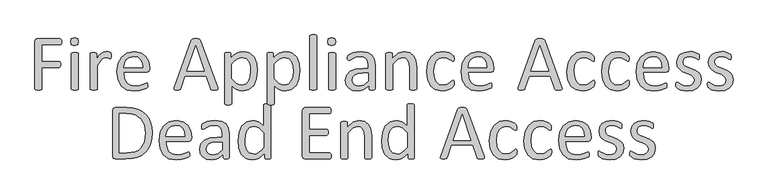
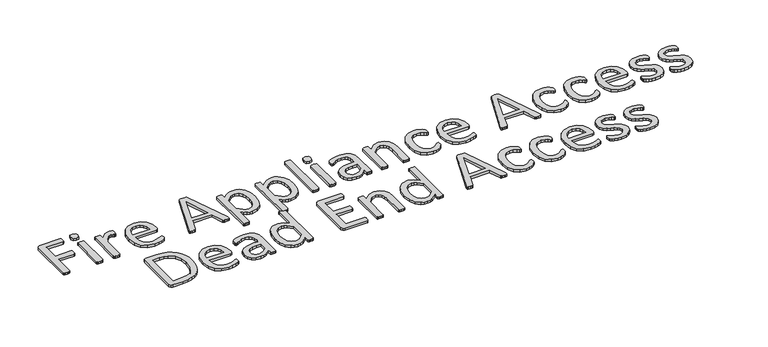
"""IFC4 building model written with IfcOpenShell, lengths in millimetres: proxy geometry, Marker-Fire Appliance Access Dead End : FAA Dead End Line."""

from ifc_helpers import new_model, si_unit, origin, origin_with_axes, place, context, project, spatial, polyline, outline, extrude, source, transform, mapped, element, save


def generic_models_7050a683(model_context):
    return source(origin(), model_context, "Body", "SweptSolid", [
        extrude(outline(polyline([(3049.3085596, 236.2082635), (3049.0069847, 230.9910177), (3047.9514725, 227.4324338), (3046.2023381, 225.4420395), (3044.1214713, 224.8087322), (2972.1053843, 224.8087322), (2972.1053843, 159.1860331), (3040.1406825, 159.1860331), (3042.2215494, 158.6130408), (3043.9706838, 156.7432764), (3045.026196, 153.275165), (3045.3277709, 147.6658718), (3045.026196, 142.4184685), (3043.9706838, 138.8598846), (3042.2215494, 136.7488603), (3040.1406825, 136.0250805), (2972.1053843, 136.0250805), (2972.1053843, 52.1872573), (2971.472077, 50.1063905), (2969.2705802, 48.5683585), (2965.199319, 47.6334763), (2958.5948286, 47.2414289), (2952.1411256, 47.6334763), (2947.919077, 48.5683585), (2945.7175802, 50.1063905), (2945.0842729, 52.1872573), (2945.0842729, 237.1733032), (2948.2206519, 245.587243), (2954.9156148, 247.9696848), (3044.1214713, 247.9696848), (3046.1420231, 247.3363775), (3047.921315, 245.2856681), (3049.0069847, 241.5461393), (3049.3085596, 236.2082635)])), origin_with_axes(), (0.0, 0.0, 1.0), 10.0),
        extrude(outline(polyline([(3114.9312586, 236.5701534), (3111.6139347, 224.2357399), (3099.3096786, 220.9485734), (3087.3069975, 224.1452674), (3084.0499885, 236.2082635), (3087.3673124, 248.5426771), (3099.6715685, 251.8298435), (3111.6742497, 248.6331496), (3114.9312586, 236.5701534)])), origin_with_axes(), (0.0, 0.0, 1.0), 10.0),
        extrude(outline(polyline([(3114.9312586, 51.9459974), (3114.2677938, 49.8952881), (3112.126612, 48.4477285), (3108.0553508, 47.5430038), (3101.360388, 47.2414289), (3094.7860551, 47.5430038), (3090.6243214, 48.4477285), (3088.4831396, 49.8952881), (3087.9101473, 51.9459974), (3087.9101473, 189.2228935), (3088.4831396, 191.1831304), (3090.6243214, 192.7211624), (3094.7860551, 193.6258871), (3101.360388, 193.927462), (3108.0553508, 193.6258871), (3112.126612, 192.7211624), (3114.2677938, 191.1831304), (3114.9312586, 189.2228935), (3114.9312586, 51.9459974)])), origin_with_axes(), (0.0, 0.0, 1.0), 10.0),
        extrude(outline(polyline([(3242.3164979, 182.3469857), (3242.1657105, 176.8583225), (3241.5625607, 173.2997386), (3240.4467335, 171.2791868), (3238.5769691, 170.5855645), (3235.6516926, 171.2791868), (3231.7613763, 172.6664313), (3226.9060204, 173.9933609), (3221.0856247, 174.6266682), (3213.7271971, 172.9680062), (3206.157667, 167.539658), (3197.8643571, 157.5273712), (3188.2742752, 142.2375235), (3188.2742752, 51.9459974), (3187.6108104, 49.8952881), (3185.4696286, 48.4477285), (3181.3983674, 47.5430038), (3174.7034045, 47.2414289), (3168.1290716, 47.5430038), (3163.967338, 48.4477285), (3161.8261561, 49.8952881), (3161.2531638, 51.9459974), (3161.2531638, 189.2228935), (3161.7356837, 191.2736029), (3163.6959205, 192.7814774), (3167.4656068, 193.6862021), (3173.5574199, 193.927462), (3179.528603, 193.6862021), (3183.2078168, 192.7814774), (3185.1077387, 191.2736029), (3185.680731, 189.2228935), (3185.680731, 169.1983199), (3196.1152227, 183.4929704), (3205.3735722, 192.2084851), (3213.9986145, 196.5813212), (3222.6538142, 197.7876208), (3227.0568078, 197.5765184), (3232.2438961, 196.7622661), (3237.1294096, 195.4051791), (3240.2054736, 193.927462), (3241.4117732, 192.5402175), (3241.954608, 190.8212405), (3242.2561829, 187.775334), (3242.3164979, 182.3469857)])), origin_with_axes(), (0.0, 0.0, 1.0), 10.0),
        extrude(outline(polyline([(3392.8626898, 127.7619282), (3389.8770983, 119.2575159), (3383.031348, 116.7242867), (3292.4985619, 116.7242867), (3294.7603737, 94.4077438), (3302.2695888, 77.3989193), (3315.9610894, 66.4819078), (3336.5888128, 62.682064), (3353.7182673, 64.4613559), (3366.7463032, 68.4723021), (3375.7633928, 72.4832483), (3381.1012686, 74.2625403), (3382.971033, 73.7498629), (3384.2678051, 72.2419884), (3384.9312699, 69.4373418), (3385.1423723, 65.0343482), (3384.9915848, 61.8074967), (3384.5995375, 59.36474), (3383.8456002, 57.4045032), (3382.4885131, 55.7458412), (3377.5728422, 52.8205646), (3366.9875631, 48.6588309), (3351.9088179, 45.0097746), (3333.6333788, 43.3812701), (3304.1695107, 48.2064686), (3282.90848, 62.561434), (3269.8804441, 86.4763239), (3265.4774505, 119.8606657), (3270.0915466, 152.4307553), (3283.3909998, 176.9186375), (3304.3806131, 192.38943), (3331.9445593, 197.7876208), (3359.6894504, 192.570375), (3378.5378819, 178.5169845), (3389.3945784, 157.7987886), (3392.8626898, 132.4061817), (3392.8626898, 127.7619282)]), holes=[polyline([(3365.8415785, 136.0250805), (3363.888881, 153.7350668), (3357.1863787, 167.1777681), (3345.899938, 175.6595622), (3330.1954249, 178.486827), (3314.1214825, 174.9885581), (3302.5711637, 165.6698936), (3295.3635235, 152.1291804), (3292.4985619, 136.0250805), (3365.8415785, 136.0250805)])]), origin_with_axes(), (0.0, 0.0, 1.0), 10.0),
        extrude(outline(polyline([(3658.0073451, 57.6759206), (3659.3041172, 52.1872573), (3658.1581326, 48.9604059), (3654.0567139, 47.5430038), (3646.4268688, 47.2414289), (3638.7367088, 47.4826888), (3634.4241877, 48.2667836), (3632.2830058, 49.7445006), (3630.9259188, 52.0666274), (3613.7964642, 101.2836516), (3530.6221058, 101.2836516), (3514.276746, 52.7300921), (3513.0101314, 50.3174929), (3510.7784772, 48.5683585), (3506.6167435, 47.5430038), (3499.5598907, 47.2414289), (3492.2316206, 47.6334763), (3488.2206744, 49.1111933), (3487.1350047, 52.3078873), (3488.4619343, 57.7965505), (3555.5321929, 242.4810215), (3557.1305398, 245.2253531), (3560.0859739, 246.8840151), (3565.0318023, 247.7284248), (3572.6616474, 247.9696848), (3580.8644848, 247.7284248), (3586.1420456, 246.8840151), (3589.2181096, 245.1650382), (3590.9370865, 242.3603916), (3658.0073451, 57.6759206)]), holes=[polyline([(3571.9378676, 220.9485734), (3537.3170687, 120.5844455), (3606.8602415, 120.5844455), (3571.9378676, 220.9485734)])]), origin_with_axes(), (0.0, 0.0, 1.0), 10.0),
        extrude(outline(polyline([(3813.6199954, 122.6954698), (3809.7598366, 89.6127029), (3798.4206203, 64.7026158), (3779.8737637, 48.9302484), (3754.5716293, 43.3812701), (3743.3832003, 44.6177272), (3733.3105986, 48.538201), (3723.5395717, 55.2633213), (3713.2558675, 64.7930883), (3713.2558675, -5.6548092), (3712.5924027, -7.856306), (3710.4512209, -9.4244955), (3706.3799597, -10.3593777), (3699.6849968, -10.6609526), (3693.1106639, -10.3593777), (3688.9489302, -9.4244955), (3686.8077484, -7.856306), (3686.2347561, -5.7151242), (3686.2347561, 189.1022636), (3686.7172759, 191.3640754), (3688.6775128, 192.8417924), (3692.4471991, 193.6862021), (3698.0564923, 193.927462), (3703.695943, 193.7163596), (3707.3751568, 192.9322649), (3709.4258662, 191.5450203), (3709.9988585, 189.4038385), (3709.9988585, 171.8521791), (3721.9713822, 183.2517104), (3733.582016, 191.3037604), (3745.5846971, 196.1591163), (3758.552418, 197.7876208), (3772.3042336, 196.3023644), (3783.8847099, 191.8465952), (3800.9538494, 175.6218654), (3810.5740889, 151.676818), (3813.6199954, 122.6954698)]), holes=[polyline([(3786.598884, 119.7400357), (3785.0306945, 140.1868142), (3779.6325038, 157.7384736), (3769.3487995, 170.0125722), (3753.3050147, 174.6266682), (3743.8355627, 173.2092662), (3734.3962682, 168.6856426), (3724.3538239, 160.5431202), (3713.2558675, 148.1483917), (3713.2558675, 92.2364045), (3732.5868188, 73.1467131), (3741.9582589, 68.1933453), (3751.7971402, 66.5422227), (3767.78061, 71.1563188), (3778.5769916, 83.4304173), (3784.6386472, 100.5900294), (3786.598884, 119.7400357)])]), origin_with_axes(), (0.0, 0.0, 1.0), 10.0),
        extrude(outline(polyline([(3979.6068224, 122.6954698), (3975.7466636, 89.6127029), (3964.4074472, 64.7026158), (3945.8605906, 48.9302484), (3920.5584562, 43.3812701), (3909.3700273, 44.6177272), (3899.2974255, 48.538201), (3889.5263986, 55.2633213), (3879.2426944, 64.7930883), (3879.2426944, -5.6548092), (3878.5792296, -7.856306), (3876.4380478, -9.4244955), (3872.3667866, -10.3593777), (3865.6718238, -10.6609526), (3859.0974909, -10.3593777), (3854.9357572, -9.4244955), (3852.7945754, -7.856306), (3852.2215831, -5.7151242), (3852.2215831, 189.1022636), (3852.7041029, 191.3640754), (3854.6643398, 192.8417924), (3858.4340261, 193.6862021), (3864.0433193, 193.927462), (3869.68277, 193.7163596), (3873.3619838, 192.9322649), (3875.4126932, 191.5450203), (3875.9856855, 189.4038385), (3875.9856855, 171.8521791), (3887.9582091, 183.2517104), (3899.5688429, 191.3037604), (3911.5715241, 196.1591163), (3924.539245, 197.7876208), (3938.2910606, 196.3023644), (3949.8715369, 191.8465952), (3966.9406764, 175.6218654), (3976.5609158, 151.676818), (3979.6068224, 122.6954698)]), holes=[polyline([(3952.585711, 119.7400357), (3951.0175215, 140.1868142), (3945.6193307, 157.7384736), (3935.3356265, 170.0125722), (3919.2918416, 174.6266682), (3909.8223897, 173.2092662), (3900.3830952, 168.6856426), (3890.3406509, 160.5431202), (3879.2426944, 148.1483917), (3879.2426944, 92.2364045), (3898.5736458, 73.1467131), (3907.9450859, 68.1933453), (3917.7839671, 66.5422227), (3933.767437, 71.1563188), (3944.5638186, 83.4304173), (3950.6254741, 100.5900294), (3952.585711, 119.7400357)])]), origin_with_axes(), (0.0, 0.0, 1.0), 10.0),
        extrude(outline(polyline([(4045.2295214, 52.0063124), (4044.5660566, 49.955603), (4042.4248748, 48.477886), (4038.3536136, 47.5430038), (4031.6586507, 47.2414289), (4025.0843178, 47.5430038), (4020.9225842, 48.477886), (4018.7814023, 49.955603), (4018.20841, 52.0063124), (4018.20841, 258.4644914), (4018.7814023, 260.6358307), (4020.9225842, 262.1738627), (4025.0843178, 263.1087449), (4031.6586507, 263.4103198), (4038.3536136, 263.1087449), (4042.4248748, 262.1738627), (4044.5660566, 260.6358307), (4045.2295214, 258.4644914), (4045.2295214, 52.0063124)])), origin_with_axes(), (0.0, 0.0, 1.0), 10.0),
        extrude(outline(polyline([(4118.572538, 236.5701534), (4115.255214, 224.2357399), (4102.950958, 220.9485734), (4090.9482768, 224.1452674), (4087.6912678, 236.2082635), (4091.0085918, 248.5426771), (4103.3128478, 251.8298435), (4115.315529, 248.6331496), (4118.572538, 236.5701534)])), origin_with_axes(), (0.0, 0.0, 1.0), 10.0),
        extrude(outline(polyline([(4118.572538, 51.9459974), (4117.9090732, 49.8952881), (4115.7678914, 48.4477285), (4111.6966302, 47.5430038), (4105.0016673, 47.2414289), (4098.4273344, 47.5430038), (4094.2656007, 48.4477285), (4092.1244189, 49.8952881), (4091.5514266, 51.9459974), (4091.5514266, 189.2228935), (4092.1244189, 191.1831304), (4094.2656007, 192.7211624), (4098.4273344, 193.6258871), (4105.0016673, 193.927462), (4111.6966302, 193.6258871), (4115.7678914, 192.7211624), (4117.9090732, 191.1831304), (4118.572538, 189.2228935), (4118.572538, 51.9459974)])), origin_with_axes(), (0.0, 0.0, 1.0), 10.0),
        extrude(outline(polyline([(4272.9788886, 51.8856824), (4271.6519591, 49.0810358), (4268.0330602, 47.6937913), (4261.2777824, 47.2414289), (4254.4320321, 47.6937913), (4250.7226607, 49.0810358), (4249.5766761, 51.8856824), (4249.5766761, 65.758128), (4229.2505276, 49.7143431), (4217.7002088, 44.9645384), (4205.4864252, 43.3812701), (4185.5523241, 46.2462317), (4170.3831064, 54.5395416), (4160.642237, 67.8691523), (4157.1741256, 85.8430166), (4161.9691666, 106.289795), (4175.7209822, 120.7050754), (4197.6454777, 129.2999602), (4226.8379284, 132.1649218), (4245.9577773, 132.1649218), (4245.9577773, 143.6850831), (4244.2689578, 158.7638283), (4238.8406095, 169.6808398), (4229.1600551, 176.2551727), (4214.5336723, 178.486827), (4197.7962652, 176.0742277), (4184.8285443, 170.7665094), (4175.5098798, 165.4587911), (4169.9609015, 163.0461919), (4167.7895622, 163.6794992), (4166.1912153, 165.6095786), (4165.1960181, 168.9269025), (4164.8944432, 173.3600536), (4165.437278, 179.6931266), (4168.0911371, 184.1262777), (4175.3289348, 188.6499012), (4187.1506711, 193.1132098), (4201.7770539, 196.4606912), (4217.7906813, 197.7876208), (4243.4245481, 194.3798244), (4260.5238451, 184.4278526), (4270.0234546, 168.1729653), (4272.9788886, 145.4945325), (4272.9788886, 51.8856824)]), holes=[polyline([(4245.9577773, 112.8641279), (4224.4856441, 112.8641279), (4206.5720949, 111.084836), (4193.9361064, 105.8374327), (4186.5475212, 97.5139653), (4184.195237, 86.3255364), (4185.8840565, 76.584667), (4190.9505148, 69.0754519), (4199.0628797, 64.280411), (4209.8894188, 62.682064), (4228.2251729, 67.7786798), (4245.9577773, 83.3701024), (4245.9577773, 112.8641279)])]), origin_with_axes(), (0.0, 0.0, 1.0), 10.0),
        extrude(outline(polyline([(4435.1055568, 52.0063124), (4434.442092, 49.955603), (4432.3009102, 48.477886), (4428.229649, 47.5430038), (4421.6553161, 47.2414289), (4414.9603533, 47.5430038), (4410.8890921, 48.4477285), (4408.7479103, 49.8952881), (4408.0844455, 52.0063124), (4408.0844455, 132.5871266), (4406.3051535, 151.5260306), (4401.1482227, 163.9207591), (4392.372393, 171.8823366), (4379.9173495, 174.6266682), (4361.6117528, 167.9015478), (4342.4617464, 148.1483917), (4342.4617464, 52.0063124), (4341.7982816, 49.8952881), (4339.6570998, 48.4477285), (4335.5858386, 47.5430038), (4328.8908758, 47.2414289), (4322.3165429, 47.5430038), (4318.1548092, 48.4477285), (4316.0136274, 49.8952881), (4315.4406351, 51.9459974), (4315.4406351, 189.2228935), (4315.9231549, 191.2736029), (4317.8833918, 192.7814774), (4321.6530781, 193.6862021), (4327.7448911, 193.927462), (4333.7160742, 193.6862021), (4337.3952881, 192.7814774), (4339.2952099, 191.2736029), (4339.8682023, 189.2228935), (4339.8682023, 171.0680843), (4362.9386824, 191.3640754), (4386.1297925, 197.7876208), (4409.1701151, 193.0830523), (4424.3091753, 180.5073788), (4432.6024851, 162.0811522), (4435.1055568, 136.6885453), (4435.1055568, 52.0063124)])), origin_with_axes(), (0.0, 0.0, 1.0), 10.0),
        extrude(outline(polyline([(4581.79159, 74.98632), (4581.6408025, 70.7642714), (4581.0979677, 67.7485223), (4580.193243, 65.3057656), (4577.7806437, 61.6868668), (4571.2967833, 55.8061562), (4561.0130791, 49.5635557), (4548.6183506, 45.1002471), (4534.745905, 43.3812701), (4508.5692034, 48.3874135), (4489.479512, 63.0137964), (4477.7482482, 86.5969538), (4473.7071445, 118.835311), (4478.6529729, 154.5719371), (4492.1936861, 179.0296618), (4512.4293621, 193.1735248), (4537.6410241, 197.7876208), (4550.367485, 196.4305337), (4561.7067014, 192.8719499), (4570.9348934, 187.8054915), (4576.7854466, 182.8898206), (4579.2885183, 179.6629691), (4580.4345029, 177.0995824), (4581.0376527, 173.9330459), (4581.1884402, 169.4998948), (4579.8313531, 161.4780024), (4576.5441866, 159.1860331), (4571.3269408, 161.5986324), (4563.8780407, 166.9063507), (4552.9308717, 172.214069), (4537.821969, 174.6266682), (4521.9515897, 171.1283993), (4510.2881803, 160.6335927), (4503.118237, 143.4739807), (4500.7282559, 119.9812957), (4503.2011701, 96.6393981), (4510.4992827, 79.8718335), (4522.3511765, 69.8293892), (4538.4251188, 66.5422227), (4553.4737065, 69.5881293), (4564.6922929, 76.2830921), (4572.6840279, 82.8875825), (4577.7504863, 85.8430166), (4579.5297782, 85.2700243), (4580.8265503, 83.3399449), (4581.5804875, 79.901991), (4581.79159, 74.98632)])), origin_with_axes(), (0.0, 0.0, 1.0), 10.0),
        extrude(outline(polyline([(4736.1979406, 127.7619282), (4733.2123491, 119.2575159), (4726.3665988, 116.7242867), (4635.8338127, 116.7242867), (4638.0956245, 94.4077438), (4645.6048396, 77.3989193), (4659.2963402, 66.4819078), (4679.9240636, 62.682064), (4697.0535181, 64.4613559), (4710.081554, 68.4723021), (4719.0986436, 72.4832483), (4724.4365194, 74.2625403), (4726.3062838, 73.7498629), (4727.6030559, 72.2419884), (4728.2665207, 69.4373418), (4728.4776231, 65.0343482), (4728.3268356, 61.8074967), (4727.9347883, 59.36474), (4727.180851, 57.4045032), (4725.8237639, 55.7458412), (4720.908093, 52.8205646), (4710.3228139, 48.6588309), (4695.2440687, 45.0097746), (4676.9686296, 43.3812701), (4647.5047615, 48.2064686), (4626.2437308, 62.561434), (4613.2156949, 86.4763239), (4608.8127013, 119.8606657), (4613.4267974, 152.4307553), (4626.7262506, 176.9186375), (4647.7158639, 192.38943), (4675.2798101, 197.7876208), (4703.0247012, 192.570375), (4721.8731327, 178.5169845), (4732.7298292, 157.7987886), (4736.1979406, 132.4061817), (4736.1979406, 127.7619282)]), holes=[polyline([(4709.1768293, 136.0250805), (4707.2241318, 153.7350668), (4700.5216295, 167.1777681), (4689.2351888, 175.6595622), (4673.5306757, 178.486827), (4657.4567333, 174.9885581), (4645.9064145, 165.6698936), (4638.6987743, 152.1291804), (4635.8338127, 136.0250805), (4709.1768293, 136.0250805)])]), origin_with_axes(), (0.0, 0.0, 1.0), 10.0),
        extrude(outline(polyline([(5001.3425959, 57.6759206), (5002.639368, 52.1872573), (5001.4933834, 48.9604059), (4997.3919647, 47.5430038), (4989.7621196, 47.2414289), (4982.0719596, 47.4826888), (4977.7594385, 48.2667836), (4975.6182566, 49.7445006), (4974.2611696, 52.0666274), (4957.131715, 101.2836516), (4873.9573566, 101.2836516), (4857.6119968, 52.7300921), (4856.3453822, 50.3174929), (4854.113728, 48.5683585), (4849.9519943, 47.5430038), (4842.8951415, 47.2414289), (4835.5668714, 47.6334763), (4831.5559252, 49.1111933), (4830.4702555, 52.3078873), (4831.7971851, 57.7965505), (4898.8674437, 242.4810215), (4900.4657907, 245.2253531), (4903.4212247, 246.8840151), (4908.3670531, 247.7284248), (4915.9968982, 247.9696848), (4924.1997356, 247.7284248), (4929.4772964, 246.8840151), (4932.5533604, 245.1650382), (4934.2723374, 242.3603916), (5001.3425959, 57.6759206)]), holes=[polyline([(4915.2731184, 220.9485734), (4880.6523195, 120.5844455), (4950.1954923, 120.5844455), (4915.2731184, 220.9485734)])]), origin_with_axes(), (0.0, 0.0, 1.0), 10.0),
        extrude(outline(polyline([(5129.9341348, 74.98632), (5129.7833474, 70.7642714), (5129.2405126, 67.7485223), (5128.3357878, 65.3057656), (5125.9231886, 61.6868668), (5119.4393282, 55.8061562), (5109.155624, 49.5635557), (5096.7608954, 45.1002471), (5082.8884499, 43.3812701), (5056.7117482, 48.3874135), (5037.6220568, 63.0137964), (5025.8907931, 86.5969538), (5021.8496894, 118.835311), (5026.7955178, 154.5719371), (5040.336231, 179.0296618), (5060.571907, 193.1735248), (5085.7835689, 197.7876208), (5098.5100299, 196.4305337), (5109.8492463, 192.8719499), (5119.0774383, 187.8054915), (5124.9279914, 182.8898206), (5127.4310631, 179.6629691), (5128.5770478, 177.0995824), (5129.1801976, 173.9330459), (5129.330985, 169.4998948), (5127.973898, 161.4780024), (5124.6867315, 159.1860331), (5119.4694857, 161.5986324), (5112.0205856, 166.9063507), (5101.0734166, 172.214069), (5085.9645139, 174.6266682), (5070.0941346, 171.1283993), (5058.4307252, 160.6335927), (5051.2607818, 143.4739807), (5048.8708007, 119.9812957), (5051.3437149, 96.6393981), (5058.6418276, 79.8718335), (5070.4937213, 69.8293892), (5086.5676637, 66.5422227), (5101.6162514, 69.5881293), (5112.8348378, 76.2830921), (5120.8265727, 82.8875825), (5125.8930311, 85.8430166), (5127.6723231, 85.2700243), (5128.9690951, 83.3399449), (5129.7230324, 79.901991), (5129.9341348, 74.98632)])), origin_with_axes(), (0.0, 0.0, 1.0), 10.0),
        extrude(outline(polyline([(5265.0396917, 74.98632), (5264.8889042, 70.7642714), (5264.3460694, 67.7485223), (5263.4413447, 65.3057656), (5261.0287455, 61.6868668), (5254.544885, 55.8061562), (5244.2611808, 49.5635557), (5231.8664523, 45.1002471), (5217.9940067, 43.3812701), (5191.8173051, 48.3874135), (5172.7276137, 63.0137964), (5160.9963499, 86.5969538), (5156.9552462, 118.835311), (5161.9010746, 154.5719371), (5175.4417878, 179.0296618), (5195.6774638, 193.1735248), (5220.8891258, 197.7876208), (5233.6155867, 196.4305337), (5244.9548031, 192.8719499), (5254.1829951, 187.8054915), (5260.0335483, 182.8898206), (5262.53662, 179.6629691), (5263.6826046, 177.0995824), (5264.2857544, 173.9330459), (5264.4365419, 169.4998948), (5263.0794548, 161.4780024), (5259.7922883, 159.1860331), (5254.5750425, 161.5986324), (5247.1261424, 166.9063507), (5236.1789734, 172.214069), (5221.0700707, 174.6266682), (5205.1996914, 171.1283993), (5193.536282, 160.6335927), (5186.3663387, 143.4739807), (5183.9763576, 119.9812957), (5186.4492718, 96.6393981), (5193.7473844, 79.8718335), (5205.5992782, 69.8293892), (5221.6732205, 66.5422227), (5236.7218082, 69.5881293), (5247.9403946, 76.2830921), (5255.9321296, 82.8875825), (5260.998588, 85.8430166), (5262.7778799, 85.2700243), (5264.074652, 83.3399449), (5264.8285892, 79.901991), (5265.0396917, 74.98632)])), origin_with_axes(), (0.0, 0.0, 1.0), 10.0),
        extrude(outline(polyline([(3402.5130867, -118.9218669), (3400.8468854, -143.3343554), (3395.8482814, -164.4596774), (3387.645444, -182.2676754), (3376.3665426, -196.7281921), (3362.1020497, -207.9090816), (3344.9424376, -215.8781984), (3324.5484348, -220.6506213), (3300.5807693, -222.2414289), (3258.0587079, -222.2414289), (3251.2732726, -219.8288297), (3248.1067361, -211.3847324), (3248.1067361, -32.3698696), (3251.2732726, -23.9257723), (3258.0587079, -21.513173), (3303.5362034, -21.513173), (3327.5792626, -23.2019925), (3347.5962968, -28.2684509), (3364.1452196, -36.4939064), (3377.7839446, -47.6597172), (3388.4898537, -61.637714), (3396.2403288, -78.2997274), (3400.9448972, -97.4572731), (3402.5130867, -118.9218669)]), holes=[polyline([(3375.4919754, -120.1281665), (3371.4207142, -90.1516211), (3358.6942532, -66.1462588), (3336.7396003, -50.3437338), (3321.5326857, -46.0915277), (3302.5108487, -44.6741256), (3275.1278474, -44.6741256), (3275.1278474, -199.0804763), (3302.8124236, -199.0804763), (3335.4729857, -194.3155928), (3347.6716905, -188.2916341), (3357.6688986, -179.749525), (3371.0286668, -155.1410128), (3375.4919754, -120.1281665)])]), origin_with_axes(), (0.0, 0.0, 1.0), 10.0),
        extrude(outline(polyline([(3556.9194374, -141.7209296), (3553.9338459, -150.2253419), (3547.0880956, -152.7585711), (3456.5553095, -152.7585711), (3458.8171213, -175.075114), (3466.3263364, -192.0839385), (3480.017837, -203.00095), (3500.6455604, -206.8007938), (3517.7750149, -205.0215019), (3530.8030508, -201.0105557), (3539.8201404, -196.9996095), (3545.1580162, -195.2203175), (3547.0277806, -195.7329949), (3548.3245527, -197.2408694), (3548.9880174, -200.045516), (3549.1991199, -204.4485096), (3549.0483324, -207.6753611), (3548.6562851, -210.1181178), (3547.9023478, -212.0783546), (3546.5452607, -213.7370166), (3541.6295898, -216.6622932), (3531.0443107, -220.8240269), (3515.9655655, -224.4730832), (3497.6901263, -226.1015877), (3468.2262583, -221.2763892), (3446.9652275, -206.9214238), (3433.9371917, -183.0065339), (3429.5341981, -149.6221921), (3434.1482941, -117.0521025), (3447.4477474, -92.5642203), (3468.4373607, -77.0934278), (3496.0013069, -71.695237), (3523.746198, -76.9124828), (3542.5946295, -90.9658733), (3553.451326, -111.6840692), (3556.9194374, -137.0766761), (3556.9194374, -141.7209296)]), holes=[polyline([(3529.898326, -133.4577773), (3527.9456285, -115.747791), (3521.2431263, -102.3050897), (3509.9566855, -93.8232956), (3494.2521724, -90.9960308), (3478.1782301, -94.4942997), (3466.6279113, -103.8129642), (3459.4202711, -117.3536774), (3456.5553095, -133.4577773), (3529.898326, -133.4577773)])]), origin_with_axes(), (0.0, 0.0, 1.0), 10.0),
        extrude(outline(polyline([(3703.6054705, -217.5971754), (3702.278541, -220.401822), (3698.6596421, -221.7890665), (3691.9043643, -222.2414289), (3685.058614, -221.7890665), (3681.3492427, -220.401822), (3680.203258, -217.5971754), (3680.203258, -203.7247298), (3659.8771095, -219.7685147), (3648.3267907, -224.5183194), (3636.1130071, -226.1015877), (3616.178906, -223.2366261), (3601.0096883, -214.9433162), (3591.2688189, -201.6137055), (3587.8007075, -183.6398412), (3592.5957485, -163.1930628), (3606.3475641, -148.7777824), (3628.2720596, -140.1828976), (3657.4645103, -137.317936), (3676.5843592, -137.317936), (3676.5843592, -125.7977747), (3674.8955397, -110.7190295), (3669.4671915, -99.802018), (3659.786637, -93.2276851), (3645.1602542, -90.9960308), (3628.4228471, -93.4086301), (3615.4551262, -98.7163484), (3606.1364617, -104.0240667), (3600.5874835, -106.4366659), (3598.4161442, -105.8033586), (3596.8177972, -103.8732792), (3595.8226, -100.5559553), (3595.5210251, -96.1228042), (3596.0638599, -89.7897312), (3598.7177191, -85.3565801), (3605.9555167, -80.8329566), (3617.777253, -76.369648), (3632.4036358, -73.0221666), (3648.4172632, -71.695237), (3674.05113, -75.1030334), (3691.150427, -85.0550052), (3700.6500365, -101.3098925), (3703.6054705, -123.9883253), (3703.6054705, -217.5971754)]), holes=[polyline([(3676.5843592, -156.6187299), (3655.112226, -156.6187299), (3637.1986768, -158.3980218), (3624.5626883, -163.6454251), (3617.1741032, -171.9688925), (3614.8218189, -183.1573214), (3616.5106384, -192.8981908), (3621.5770968, -200.4074059), (3629.6894617, -205.2024468), (3640.5160007, -206.8007938), (3658.8517548, -201.704178), (3676.5843592, -186.1127554), (3676.5843592, -156.6187299)])]), origin_with_axes(), (0.0, 0.0, 1.0), 10.0),
        extrude(outline(polyline([(5419.4460423, 127.7619282), (5416.4604508, 119.2575159), (5409.6147005, 116.7242867), (5319.0819144, 116.7242867), (5321.3437262, 94.4077438), (5328.8529413, 77.3989193), (5342.5444419, 66.4819078), (5363.1721653, 62.682064), (5380.3016198, 64.4613559), (5393.3296557, 68.4723021), (5402.3467453, 72.4832483), (5407.6846211, 74.2625403), (5409.5543855, 73.7498629), (5410.8511576, 72.2419884), (5411.5146224, 69.4373418), (5411.7257248, 65.0343482), (5411.5749374, 61.8074967), (5411.18289, 59.36474), (5410.4289527, 57.4045032), (5409.0718657, 55.7458412), (5404.1561947, 52.8205646), (5393.5709156, 48.6588309), (5378.4921704, 45.0097746), (5360.2167313, 43.3812701), (5330.7528632, 48.2064686), (5309.4918325, 62.561434), (5296.4637966, 86.4763239), (5292.060803, 119.8606657), (5296.6748991, 152.4307553), (5309.9743523, 176.9186375), (5330.9639656, 192.38943), (5358.5279118, 197.7876208), (5386.2728029, 192.570375), (5405.1212344, 178.5169845), (5415.9779309, 157.7987886), (5419.4460423, 132.4061817), (5419.4460423, 127.7619282)]), holes=[polyline([(5392.424931, 136.0250805), (5390.4722335, 153.7350668), (5383.7697312, 167.1777681), (5372.4832905, 175.6595622), (5356.7787774, 178.486827), (5340.704835, 174.9885581), (5329.1545162, 165.6698936), (5321.946876, 152.1291804), (5319.0819144, 136.0250805), (5392.424931, 136.0250805)])]), origin_with_axes(), (0.0, 0.0, 1.0), 10.0),
        extrude(outline(polyline([(5116.4235792, -141.7209296), (5113.4379876, -150.2253419), (5106.5922373, -152.7585711), (5016.0594512, -152.7585711), (5018.321263, -175.075114), (5025.8304781, -192.0839385), (5039.5219787, -203.00095), (5060.1497021, -206.8007938), (5077.2791567, -205.0215019), (5090.3071925, -201.0105557), (5099.3242821, -196.9996095), (5104.6621579, -195.2203175), (5106.5319223, -195.7329949), (5107.8286944, -197.2408694), (5108.4921592, -200.045516), (5108.7032616, -204.4485096), (5108.5524742, -207.6753611), (5108.1604268, -210.1181178), (5107.4064895, -212.0783546), (5106.0494025, -213.7370166), (5101.1337315, -216.6622932), (5090.5484524, -220.8240269), (5075.4697072, -224.4730832), (5057.1942681, -226.1015877), (5027.7304, -221.2763892), (5006.4693693, -206.9214238), (4993.4413334, -183.0065339), (4989.0383399, -149.6221921), (4993.6524359, -117.0521025), (5006.9518891, -92.5642203), (5027.9415024, -77.0934278), (5055.5054486, -71.695237), (5083.2503398, -76.9124828), (5102.0987712, -90.9658733), (5112.9554678, -111.6840692), (5116.4235792, -137.0766761), (5116.4235792, -141.7209296)]), holes=[polyline([(5089.4024678, -133.4577773), (5087.4497703, -115.747791), (5080.7472681, -102.3050897), (5069.4608273, -93.8232956), (5053.7563142, -90.9960308), (5037.6823718, -94.4942997), (5026.132053, -103.8129642), (5018.9244128, -117.3536774), (5016.0594512, -133.4577773), (5089.4024678, -133.4577773)])]), origin_with_axes(), (0.0, 0.0, 1.0), 10.0),
        extrude(outline(polyline([(5546.8312816, 88.4968757), (5542.8203354, 69.2865544), (5531.3906466, 55.0823764), (5513.7485147, 46.3367042), (5491.2208694, 43.3812701), (5476.7754315, 44.7685147), (5464.5013329, 48.2969411), (5455.3032984, 52.7602496), (5449.7844776, 56.9521408), (5447.2512485, 61.3852919), (5446.4671537, 68.4119871), (5446.7687286, 72.9657682), (5447.5528234, 75.9513597), (5448.8797529, 77.6100217), (5450.8098323, 78.122699), (5455.8159757, 75.7100998), (5464.0188131, 70.4023815), (5475.5691319, 65.0946632), (5490.8589795, 62.682064), (5502.6204008, 64.159781), (5511.7581203, 68.5326171), (5517.7293034, 75.8910447), (5519.8101703, 86.4461664), (5516.8245787, 96.4282957), (5508.8931588, 103.6359359), (5497.8253598, 109.1849141), (5485.1592138, 114.2513725), (5472.4025954, 120.2527131), (5461.244324, 128.4555505), (5453.312904, 140.0058693), (5450.3273125, 156.1099691), (5453.5240064, 171.9426516), (5463.1140884, 185.2119473), (5479.0975583, 194.3496669), (5501.5347311, 197.7876208), (5512.7533175, 196.7622661), (5522.8862343, 194.168722), (5530.6065518, 190.791083), (5535.4317503, 187.5943891), (5537.6030896, 185.3024198), (5538.3871843, 183.3120254), (5538.8697042, 180.5676938), (5539.1109641, 176.5567476), (5538.8697042, 172.1839115), (5538.0856094, 169.138005), (5536.7285224, 167.419028), (5534.9492304, 166.9063507), (5530.7874968, 168.7459576), (5523.7608015, 172.6965888), (5513.6278847, 176.6472201), (5500.3284315, 178.486827), (5488.5066953, 176.948795), (5480.122913, 172.5759589), (5475.1770845, 165.880996), (5473.4882651, 157.4972137), (5476.684959, 147.2738244), (5485.0385839, 140.0058693), (5496.7698476, 134.3965761), (5510.1597734, 129.2698027), (5523.6401715, 123.3287771), (5535.4317503, 115.3671996), (5543.6949026, 104.1184557), (5546.8312816, 88.4968757)])), origin_with_axes(), (0.0, 0.0, 1.0), 10.0),
        extrude(outline(polyline([(5670.3563622, 88.4968757), (5666.345416, 69.2865544), (5654.9157271, 55.0823764), (5637.2735952, 46.3367042), (5614.7459499, 43.3812701), (5600.3005121, 44.7685147), (5588.0264135, 48.2969411), (5578.8283789, 52.7602496), (5573.3095582, 56.9521408), (5570.776329, 61.3852919), (5569.9922342, 68.4119871), (5570.2938091, 72.9657682), (5571.0779039, 75.9513597), (5572.4048335, 77.6100217), (5574.3349129, 78.122699), (5579.3410563, 75.7100998), (5587.5438936, 70.4023815), (5599.0942124, 65.0946632), (5614.3840601, 62.682064), (5626.1454813, 64.159781), (5635.2832009, 68.5326171), (5641.254384, 75.8910447), (5643.3352508, 86.4461664), (5640.3496593, 96.4282957), (5632.4182393, 103.6359359), (5621.3504403, 109.1849141), (5608.6842944, 114.2513725), (5595.927676, 120.2527131), (5584.7694045, 128.4555505), (5576.8379846, 140.0058693), (5573.852393, 156.1099691), (5577.049087, 171.9426516), (5586.6391689, 185.2119473), (5602.6226388, 194.3496669), (5625.0598116, 197.7876208), (5636.2783981, 196.7622661), (5646.4113148, 194.168722), (5654.1316324, 190.791083), (5658.9568308, 187.5943891), (5661.1281701, 185.3024198), (5661.9122649, 183.3120254), (5662.3947847, 180.5676938), (5662.6360446, 176.5567476), (5662.3947847, 172.1839115), (5661.61069, 169.138005), (5660.2536029, 167.419028), (5658.474311, 166.9063507), (5654.3125773, 168.7459576), (5647.285882, 172.6965888), (5637.1529653, 176.6472201), (5623.853512, 178.486827), (5612.0317758, 176.948795), (5603.6479935, 172.5759589), (5598.7021651, 165.880996), (5597.0133456, 157.4972137), (5600.2100396, 147.2738244), (5608.5636644, 140.0058693), (5620.2949282, 134.3965761), (5633.6848539, 129.2698027), (5647.1652521, 123.3287771), (5658.9568308, 115.3671996), (5667.2199832, 104.1184557), (5670.3563622, 88.4968757)])), origin_with_axes(), (0.0, 0.0, 1.0), 10.0),
        extrude(outline(polyline([(3865.7321387, -217.4162304), (3865.1591464, -219.6177272), (3863.1989096, -221.0954443), (3859.5498532, -221.939854), (3854.0310325, -222.2414289), (3848.3011093, -221.939854), (3844.5615805, -221.1557592), (3842.4505562, -219.7986722), (3841.7870914, -217.7781203), (3841.7870914, -200.6486658), (3819.3800761, -219.3764673), (3807.2190681, -224.4203076), (3793.9573117, -226.1015877), (3779.9943936, -224.6012525), (3768.2631299, -220.1002471), (3751.0432029, -203.8755173), (3741.392806, -179.80984), (3738.3468994, -150.7078618), (3742.1467432, -117.9869847), (3753.3653296, -93.0768977), (3771.7613988, -77.2442152), (3797.1540057, -71.695237), (3819.0785012, -77.0934278), (3838.7110274, -92.9261102), (3838.7110274, -11.0786814), (3839.2840197, -8.967657), (3841.4855165, -7.3994675), (3845.6472502, -6.4645853), (3852.0406381, -6.072538), (3858.735601, -6.4645853), (3862.8068622, -7.3994675), (3865.008359, -8.9374996), (3865.7321387, -11.0183664), (3865.7321387, -217.4162304)]), holes=[polyline([(3838.7110274, -120.4297414), (3819.3499186, -101.400365), (3809.8050729, -96.4922335), (3799.8681798, -94.8561896), (3783.8847099, -99.4401281), (3773.2089583, -111.5332818), (3767.2377752, -128.5421063), (3765.3680108, -147.8127427), (3766.9362003, -168.1992062), (3772.3947061, -185.8714955), (3782.7085678, -198.2662241), (3798.8428251, -202.9406351), (3808.3122771, -201.583548), (3817.6610991, -197.0900819), (3827.6432284, -188.9475595), (3838.7110274, -176.5829885), (3838.7110274, -120.4297414)])]), origin_with_axes(), (0.0, 0.0, 1.0), 10.0),
        extrude(outline(polyline([(4101.2018235, -210.7212676), (4100.9002486, -215.8480409), (4099.814579, -219.4970973), (4098.0051295, -221.6081216), (4095.7734753, -222.2414289), (3999.2091911, -222.2414289), (3992.4539133, -219.8288297), (3989.2572193, -211.3847324), (3989.2572193, -32.3698696), (3992.4840708, -23.9257723), (3999.3298211, -21.513173), (4095.8337902, -21.513173), (4098.1257595, -22.1464803), (4099.7844215, -24.2575047), (4100.8097761, -27.906561), (4101.2018235, -33.3349093), (4100.8097761, -38.4315251), (4099.7844215, -42.0202665), (4098.1257595, -44.0408183), (4095.8337902, -44.6741256), (4016.2783306, -44.6741256), (4016.2783306, -106.4366659), (4084.3136289, -106.4366659), (4086.5452832, -107.1906032), (4088.2944176, -109.27147), (4089.3197723, -112.9205263), (4089.6213472, -118.4393471), (4089.3197723, -123.5962779), (4088.2944176, -127.0945468), (4086.5452832, -129.0246262), (4084.3136289, -129.5976185), (4016.2783306, -129.5976185), (4016.2783306, -199.0804763), (4095.7734753, -199.0804763), (4098.035287, -199.7137836), (4099.814579, -201.7343355), (4100.9002486, -205.3230768), (4101.2018235, -210.7212676)])), origin_with_axes(), (0.0, 0.0, 1.0), 10.0),
        extrude(outline(polyline([(4259.4683329, -217.4765454), (4258.8048682, -219.5272548), (4256.6636863, -221.0049718), (4252.5924251, -221.939854), (4246.0180922, -222.2414289), (4239.3231294, -221.939854), (4235.2518682, -221.0351293), (4233.1106864, -219.5875697), (4232.4472216, -217.4765454), (4232.4472216, -136.8957312), (4230.6679297, -117.9568272), (4225.5109988, -105.5620987), (4216.7351691, -97.6005212), (4204.2801256, -94.8561896), (4185.9745289, -101.58131), (4166.8245225, -121.3344661), (4166.8245225, -217.4765454), (4166.1610578, -219.5875697), (4164.0198759, -221.0351293), (4159.9486147, -221.939854), (4153.2536519, -222.2414289), (4146.679319, -221.939854), (4142.5175853, -221.0351293), (4140.3764035, -219.5875697), (4139.8034112, -217.5368604), (4139.8034112, -80.2599643), (4140.285931, -78.2092549), (4142.2461679, -76.7013804), (4146.0158542, -75.7966557), (4152.1076673, -75.5553958), (4158.0788503, -75.7966557), (4161.7580642, -76.7013804), (4163.6579861, -78.2092549), (4164.2309784, -80.2599643), (4164.2309784, -98.4147735), (4187.3014585, -78.1187824), (4210.4925686, -71.695237), (4233.5328912, -76.3998055), (4248.6719514, -88.975479), (4256.9652612, -107.4017056), (4259.4683329, -132.7943125), (4259.4683329, -217.4765454)])), origin_with_axes(), (0.0, 0.0, 1.0), 10.0),
        extrude(outline(polyline([(4425.4551599, -217.4162304), (4424.8821676, -219.6177272), (4422.9219307, -221.0954443), (4419.2728744, -221.939854), (4413.7540537, -222.2414289), (4408.0241305, -221.939854), (4404.2846017, -221.1557592), (4402.1735774, -219.7986722), (4401.5101126, -217.7781203), (4401.5101126, -200.6486658), (4379.1030972, -219.3764673), (4366.9420892, -224.4203076), (4353.6803328, -226.1015877), (4339.7174148, -224.6012525), (4327.9861511, -220.1002471), (4310.7662241, -203.8755173), (4301.1158271, -179.80984), (4298.0699206, -150.7078618), (4301.8697644, -117.9869847), (4313.0883508, -93.0768977), (4331.4844199, -77.2442152), (4356.8770268, -71.695237), (4378.8015223, -77.0934278), (4398.4340486, -92.9261102), (4398.4340486, -11.0786814), (4399.0070409, -8.967657), (4401.2085377, -7.3994675), (4405.3702713, -6.4645853), (4411.7636593, -6.072538), (4418.4586222, -6.4645853), (4422.5298834, -7.3994675), (4424.7313801, -8.9374996), (4425.4551599, -11.0183664), (4425.4551599, -217.4162304)]), holes=[polyline([(4398.4340486, -120.4297414), (4379.0729397, -101.400365), (4369.528094, -96.4922335), (4359.591201, -94.8561896), (4343.6077311, -99.4401281), (4332.9319795, -111.5332818), (4326.9607964, -128.5421063), (4325.091032, -147.8127427), (4326.6592215, -168.1992062), (4332.1177272, -185.8714955), (4342.4315889, -198.2662241), (4358.5658463, -202.9406351), (4368.0352983, -201.583548), (4377.3841203, -197.0900819), (4387.3662496, -188.9475595), (4398.4340486, -176.5829885), (4398.4340486, -120.4297414)])]), origin_with_axes(), (0.0, 0.0, 1.0), 10.0),
        extrude(outline(polyline([(4698.3201327, -211.8069372), (4699.6169048, -217.2956005), (4698.4709202, -220.5224519), (4694.3695015, -221.939854), (4686.7396564, -222.2414289), (4679.0494964, -222.000169), (4674.7369753, -221.2160742), (4672.5957935, -219.7383572), (4671.2387064, -217.4162304), (4654.1092519, -168.1992062), (4570.9348934, -168.1992062), (4554.5895337, -216.7527657), (4553.3229191, -219.1653649), (4551.0912648, -220.9144993), (4546.9295311, -221.939854), (4539.8726784, -222.2414289), (4532.5444082, -221.8493815), (4528.533462, -220.3716645), (4527.4477923, -217.1749705), (4528.7747219, -211.6863073), (4595.8449805, -27.0018363), (4597.4433275, -24.2575047), (4600.3987615, -22.5988427), (4605.3445899, -21.754433), (4612.974435, -21.513173), (4621.1772724, -21.754433), (4626.4548332, -22.5988427), (4629.5308972, -24.3178196), (4631.2498742, -27.1224662), (4698.3201327, -211.8069372)]), holes=[polyline([(4612.2506552, -48.5342844), (4577.6298563, -148.8984123), (4647.1730291, -148.8984123), (4612.2506552, -48.5342844)])]), origin_with_axes(), (0.0, 0.0, 1.0), 10.0),
        extrude(outline(polyline([(4826.9116717, -194.4965378), (4826.7608842, -198.7185864), (4826.2180494, -201.7343355), (4825.3133247, -204.1770922), (4822.9007254, -207.795991), (4816.416865, -213.6767016), (4806.1331608, -219.9193021), (4793.7384323, -224.3826107), (4779.8659867, -226.1015877), (4753.689285, -221.0954443), (4734.5995936, -206.4690614), (4722.8683299, -182.885904), (4718.8272262, -150.6475468), (4723.7730546, -114.9109207), (4737.3137678, -90.453196), (4757.5494438, -76.309333), (4782.7611058, -71.695237), (4795.4875667, -73.0523241), (4806.8267831, -76.6109079), (4816.0549751, -81.6773663), (4821.9055283, -86.5930372), (4824.4086, -89.8198887), (4825.5545846, -92.3832754), (4826.1577344, -95.5498119), (4826.3085218, -99.982963), (4824.9514348, -108.0048554), (4821.6642683, -110.2968247), (4816.4470225, -107.8842254), (4808.9981224, -102.5765071), (4798.0509534, -97.2687888), (4782.9420507, -94.8561896), (4767.0716714, -98.3544585), (4755.408262, -108.8492651), (4748.2383187, -126.0088771), (4745.8483376, -149.5015621), (4748.3212518, -172.8434597), (4755.6193644, -189.6110243), (4767.4712581, -199.6534686), (4783.5452005, -202.9406351), (4798.5937882, -199.8947285), (4809.8123746, -193.1997657), (4817.8041096, -186.5952753), (4822.8705679, -183.6398412), (4824.6498599, -184.2128336), (4825.946632, -186.1429129), (4826.7005692, -189.5808668), (4826.9116717, -194.4965378)])), origin_with_axes(), (0.0, 0.0, 1.0), 10.0),
        extrude(outline(polyline([(4962.0172285, -194.4965378), (4961.866441, -198.7185864), (4961.3236062, -201.7343355), (4960.4188815, -204.1770922), (4958.0062823, -207.795991), (4951.5224218, -213.6767016), (4941.2387176, -219.9193021), (4928.8439891, -224.3826107), (4914.9715435, -226.1015877), (4888.7948419, -221.0954443), (4869.7051505, -206.4690614), (4857.9738867, -182.885904), (4853.932783, -150.6475468), (4858.8786114, -114.9109207), (4872.4193246, -90.453196), (4892.6550006, -76.309333), (4917.8666626, -71.695237), (4930.5931235, -73.0523241), (4941.9323399, -76.6109079), (4951.160532, -81.6773663), (4957.0110851, -86.5930372), (4959.5141568, -89.8198887), (4960.6601414, -92.3832754), (4961.2632912, -95.5498119), (4961.4140787, -99.982963), (4960.0569916, -108.0048554), (4956.7698252, -110.2968247), (4951.5525793, -107.8842254), (4944.1036792, -102.5765071), (4933.1565102, -97.2687888), (4918.0476075, -94.8561896), (4902.1772282, -98.3544585), (4890.5138188, -108.8492651), (4883.3438755, -126.0088771), (4880.9538944, -149.5015621), (4883.4268086, -172.8434597), (4890.7249213, -189.6110243), (4902.576815, -199.6534686), (4918.6507573, -202.9406351), (4933.699345, -199.8947285), (4944.9179314, -193.1997657), (4952.9096664, -186.5952753), (4957.9761248, -183.6398412), (4959.7554167, -184.2128336), (4961.0521888, -186.1429129), (4961.8061261, -189.5808668), (4962.0172285, -194.4965378)])), origin_with_axes(), (0.0, 0.0, 1.0), 10.0),
        extrude(outline(polyline([(5243.8088185, -180.9859821), (5239.7978722, -200.1963034), (5228.3681834, -214.4004814), (5210.7260515, -223.1461536), (5188.1984062, -226.1015877), (5173.7529683, -224.7143431), (5161.4788698, -221.1859167), (5152.2808352, -216.7226082), (5146.7620145, -212.530717), (5144.2287853, -208.0975659), (5143.4446905, -201.0708707), (5143.7462654, -196.5170896), (5144.5303602, -193.5314981), (5145.8572897, -191.8728361), (5147.7873691, -191.3601588), (5152.7935125, -193.772758), (5160.9963499, -199.0804763), (5172.5466687, -204.3881946), (5187.8365163, -206.8007938), (5199.5979376, -205.3230768), (5208.7356572, -200.9502407), (5214.7068403, -193.5918131), (5216.7877071, -183.0366914), (5213.8021155, -173.0545621), (5205.8706956, -165.8469219), (5194.8028966, -160.2979437), (5182.1367507, -155.2314853), (5169.3801322, -149.2301447), (5158.2218608, -141.0273073), (5150.2904408, -129.4769885), (5147.3048493, -113.3728887), (5150.5015433, -97.5402062), (5160.0916252, -84.2709105), (5176.0750951, -75.1331909), (5198.5122679, -71.695237), (5209.7308543, -72.7205917), (5219.8637711, -75.3141358), (5227.5840886, -78.6917748), (5232.4092871, -81.8884687), (5234.5806264, -84.180438), (5235.3647212, -86.1708324), (5235.847241, -88.915164), (5236.0885009, -92.9261102), (5235.847241, -97.2989463), (5235.0631462, -100.3448528), (5233.7060592, -102.0638298), (5231.9267673, -102.5765071), (5227.7650336, -100.7369002), (5220.7383383, -96.786269), (5210.6054216, -92.8356377), (5197.3059683, -90.9960308), (5185.4842321, -92.5340628), (5177.1004498, -96.9068989), (5172.1546213, -103.6018618), (5170.4658019, -111.9856441), (5173.6624959, -122.2090334), (5182.0161207, -129.4769885), (5193.7473844, -135.0862817), (5207.1373102, -140.2130551), (5220.6177084, -146.1540807), (5232.4092871, -154.1156582), (5240.6724395, -165.3644021), (5243.8088185, -180.9859821)])), origin_with_axes(), (0.0, 0.0, 1.0), 10.0),
        extrude(outline(polyline([(5367.333899, -180.9859821), (5363.3229528, -200.1963034), (5351.8932639, -214.4004814), (5334.2511321, -223.1461536), (5311.7234868, -226.1015877), (5297.2780489, -224.7143431), (5285.0039503, -221.1859167), (5275.8059157, -216.7226082), (5270.287095, -212.530717), (5267.7538658, -208.0975659), (5266.9697711, -201.0708707), (5267.271346, -196.5170896), (5268.0554407, -193.5314981), (5269.3823703, -191.8728361), (5271.3124497, -191.3601588), (5276.3185931, -193.772758), (5284.5214304, -199.0804763), (5296.0717493, -204.3881946), (5311.3615969, -206.8007938), (5323.1230181, -205.3230768), (5332.2607377, -200.9502407), (5338.2319208, -193.5918131), (5340.3127876, -183.0366914), (5337.3271961, -173.0545621), (5329.3957761, -165.8469219), (5318.3279771, -160.2979437), (5305.6618312, -155.2314853), (5292.9052128, -149.2301447), (5281.7469413, -141.0273073), (5273.8155214, -129.4769885), (5270.8299298, -113.3728887), (5274.0266238, -97.5402062), (5283.6167057, -84.2709105), (5299.6001756, -75.1331909), (5322.0373485, -71.695237), (5333.2559349, -72.7205917), (5343.3888516, -75.3141358), (5351.1091692, -78.6917748), (5355.9343676, -81.8884687), (5358.1057069, -84.180438), (5358.8898017, -86.1708324), (5359.3723215, -88.915164), (5359.6135815, -92.9261102), (5359.3723215, -97.2989463), (5358.5882268, -100.3448528), (5357.2311397, -102.0638298), (5355.4518478, -102.5765071), (5351.2901141, -100.7369002), (5344.2634189, -96.786269), (5334.1305021, -92.8356377), (5320.8310488, -90.9960308), (5309.0093126, -92.5340628), (5300.6255303, -96.9068989), (5295.6797019, -103.6018618), (5293.9908824, -111.9856441), (5297.1875764, -122.2090334), (5305.5412012, -129.4769885), (5317.272465, -135.0862817), (5330.6623907, -140.2130551), (5344.1427889, -146.1540807), (5355.9343676, -154.1156582), (5364.19752, -165.3644021), (5367.333899, -180.9859821)])), origin_with_axes(), (0.0, 0.0, 1.0), 10.0),
    ])


if __name__ == "__main__":
    model = new_model("IFC4")
    model_context = context("Model", 3, world=origin())
    ifc_project = project(units=[si_unit("LENGTHUNIT", "METRE", prefix="MILLI")], contexts=[model_context])
    site = spatial("IfcSite", under=ifc_project)
    building = spatial("IfcBuilding", under=site)
    placement = place(None, origin())
    generic_models_shape = generic_models_7050a683(model_context)
    element("IfcBuildingElementProxy", 1, Name="Marker-Fire Appliance Access Dead End : FAA Dead End Line", ObjectType="Marker-Fire Appliance Access Dead End : FAA Dead End Line", at=placement, inside=building, context=model_context, shape_type="MappedRepresentation", body=[
        mapped(generic_models_shape, transform((0.0, 0.0, 0.0), x_axis=(1.0, 0.0, 0.0), y_axis=(0.0, 1.0, 0.0), z_axis=(0.0, 0.0, 1.0))),
    ])
    save(model, "model.ifc")
